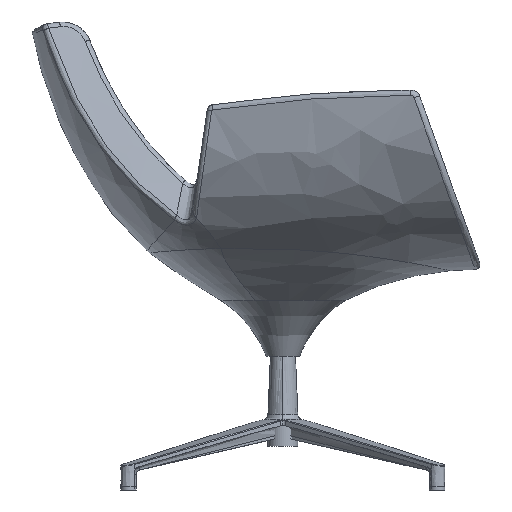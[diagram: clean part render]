
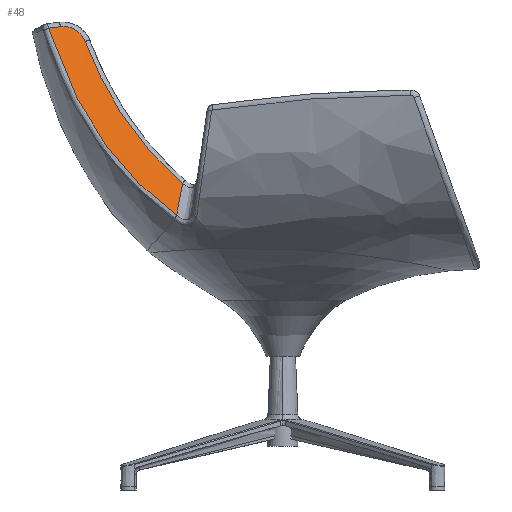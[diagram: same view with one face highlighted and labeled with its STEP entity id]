
A CAD part, left-side view. The second image highlights one B-rep face of the part: STEP entity #48.
In plain terms, the highlighted free-form (B-spline) face has degree [3, 3] with [4, 4] control points.
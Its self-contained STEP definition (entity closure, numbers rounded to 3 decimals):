
#48=ADVANCED_FACE('',(#235),#2636,.T.);
#235=FACE_OUTER_BOUND('',#422,.T.);
#422=EDGE_LOOP('',(#665,#666,#667,#668,#669));
#665=ORIENTED_EDGE('',*,*,#1434,.T.);
#666=ORIENTED_EDGE('',*,*,#1415,.F.);
#667=ORIENTED_EDGE('',*,*,#1419,.T.);
#668=ORIENTED_EDGE('',*,*,#1427,.T.);
#669=ORIENTED_EDGE('',*,*,#1430,.F.);
#1415=EDGE_CURVE('',#2270,#2268,#2082,.T.);
#1419=EDGE_CURVE('',#2270,#2272,#1824,.T.);
#1427=EDGE_CURVE('',#2272,#2273,#1832,.T.);
#1430=EDGE_CURVE('',#2284,#2273,#1835,.T.);
#1434=EDGE_CURVE('',#2284,#2268,#1839,.T.);
#1824=(
BOUNDED_CURVE()
B_SPLINE_CURVE(3,(#8282,#8283,#8284,#8285,#8286,#8287,#8288,#8289,#8290,
#8291,#8292,#8293,#8294,#8295,#8296,#8297,#8298,#8299,#8300,#8301,#8302,
#8303,#8304,#8305,#8306,#8307,#8308,#8309,#8310,#8311,#8312),
 .UNSPECIFIED.,.F.,.F.)
B_SPLINE_CURVE_WITH_KNOTS((4,3,3,3,3,3,3,3,3,3,4),(-8.956,35.045,
67.51,104.027,133.918,161.075,183.755,
220.254,241.769,257.363,274.072),
 .UNSPECIFIED.)
CURVE()
GEOMETRIC_REPRESENTATION_ITEM()
RATIONAL_B_SPLINE_CURVE((1.,1.,1.,1.,1.,1.,1.,1.,1.,1.,1.,1.,1.,1.,1.,
1.,1.,1.,1.,
1.,1.,1.,1.,1.,1.,1.,1.,1.,1.,1.,1.))
REPRESENTATION_ITEM('')
);
#1832=(
BOUNDED_CURVE()
B_SPLINE_CURVE(3,(#8425,#8426,#8427,#8428,#8429,#8430,#8431,#8432,#8433,
#8434),.UNSPECIFIED.,.F.,.F.)
B_SPLINE_CURVE_WITH_KNOTS((4,1,1,1,1,1,1,4),(2.298,8.048,
14.139,20.467,26.916,33.361,39.688,
52.337),.UNSPECIFIED.)
CURVE()
GEOMETRIC_REPRESENTATION_ITEM()
RATIONAL_B_SPLINE_CURVE((1.,1.,1.,1.,1.,
1.,1.,1.,1.,1.))
REPRESENTATION_ITEM('')
);
#1835=(
BOUNDED_CURVE()
B_SPLINE_CURVE(3,(#8455,#8456,#8457,#8458),.UNSPECIFIED.,.F.,.F.)
B_SPLINE_CURVE_WITH_KNOTS((4,4),(9.02,28.9),
 .UNSPECIFIED.)
CURVE()
GEOMETRIC_REPRESENTATION_ITEM()
RATIONAL_B_SPLINE_CURVE((1.,1.,1.,1.))
REPRESENTATION_ITEM('')
);
#1839=(
BOUNDED_CURVE()
B_SPLINE_CURVE(3,(#8471,#8472,#8473,#8474,#8475,#8476,#8477,#8478,#8479,
#8480,#8481,#8482,#8483,#8484,#8485,#8486,#8487,#8488,#8489,#8490,#8491,
#8492,#8493,#8494,#8495,#8496,#8497,#8498),.UNSPECIFIED.,.F.,.F.)
B_SPLINE_CURVE_WITH_KNOTS((4,3,3,3,3,3,3,3,3,4),(1.036,28.781,
89.128,152.305,215.117,246.445,277.36,
308.324,336.436,376.753),.UNSPECIFIED.)
CURVE()
GEOMETRIC_REPRESENTATION_ITEM()
RATIONAL_B_SPLINE_CURVE((1.,1.,1.,1.,1.,
1.,1.,1.,1.,
1.,1.,1.,1.,1.,1.,1.,
1.,1.,1.,1.,1.,1.,1.,1.,1.,1.,1.,1.))
REPRESENTATION_ITEM('')
);
#2082=B_SPLINE_CURVE_WITH_KNOTS('',3,(#8201,#8202,#8203,#8204),
 .UNSPECIFIED.,.F.,.F.,(4,4),(18.257,73.962),
 .UNSPECIFIED.);
#2268=VERTEX_POINT('',#7633);
#2270=VERTEX_POINT('',#7635);
#2272=VERTEX_POINT('',#7637);
#2273=VERTEX_POINT('',#7638);
#2284=VERTEX_POINT('',#7649);
#2636=B_SPLINE_SURFACE_WITH_KNOTS('',3,3,((#5608,#5609,#5610,#5611),(#5612,
#5613,#5614,#5615),(#5616,#5617,#5618,#5619),(#5620,#5621,#5622,#5623)),
 .UNSPECIFIED.,.F.,.F.,.F.,(4,4),(4,4),(-90.733,10.582),
(29.534,475.363),.UNSPECIFIED.);
#5608=CARTESIAN_POINT('',(-255.942,173.76,426.547));
#5609=CARTESIAN_POINT('',(-250.099,288.424,505.277));
#5610=CARTESIAN_POINT('',(-223.417,357.655,626.962));
#5611=CARTESIAN_POINT('',(-193.152,399.264,758.901));
#5612=CARTESIAN_POINT('',(-246.126,167.972,457.684));
#5613=CARTESIAN_POINT('',(-241.088,267.479,530.951));
#5614=CARTESIAN_POINT('',(-215.775,331.278,641.58));
#5615=CARTESIAN_POINT('',(-187.797,370.953,761.617));
#5616=CARTESIAN_POINT('',(-236.371,162.193,488.744));
#5617=CARTESIAN_POINT('',(-232.117,246.542,556.575));
#5618=CARTESIAN_POINT('',(-208.152,304.904,656.173));
#5619=CARTESIAN_POINT('',(-182.44,342.643,764.335));
#5620=CARTESIAN_POINT('',(-226.679,156.388,519.919));
#5621=CARTESIAN_POINT('',(-223.187,225.587,582.274));
#5622=CARTESIAN_POINT('',(-200.549,278.522,670.803));
#5623=CARTESIAN_POINT('',(-177.082,314.332,767.05));
#7633=CARTESIAN_POINT('',(-251.072,170.886,442.007));
#7635=CARTESIAN_POINT('',(-234.97,161.34,493.322));
#7637=CARTESIAN_POINT('',(-191.428,318.015,721.364));
#7638=CARTESIAN_POINT('',(-190.417,357.441,745.06));
#7649=CARTESIAN_POINT('',(-194.202,376.783,742.473));
#8201=CARTESIAN_POINT('',(-234.97,161.34,493.322));
#8202=CARTESIAN_POINT('',(-240.319,164.525,476.209));
#8203=CARTESIAN_POINT('',(-245.686,167.704,459.115));
#8204=CARTESIAN_POINT('',(-251.072,170.886,442.007));
#8282=CARTESIAN_POINT('',(-234.97,161.34,493.322));
#8283=CARTESIAN_POINT('',(-234.323,172.591,502.788));
#8284=CARTESIAN_POINT('',(-233.338,183.408,512.75));
#8285=CARTESIAN_POINT('',(-232.046,193.736,523.154));
#8286=CARTESIAN_POINT('',(-231.093,201.356,530.831));
#8287=CARTESIAN_POINT('',(-229.972,208.709,538.75));
#8288=CARTESIAN_POINT('',(-228.702,215.784,546.881));
#8289=CARTESIAN_POINT('',(-227.275,223.742,556.028));
#8290=CARTESIAN_POINT('',(-225.659,231.349,565.446));
#8291=CARTESIAN_POINT('',(-223.885,238.602,575.094));
#8292=CARTESIAN_POINT('',(-222.432,244.538,582.991));
#8293=CARTESIAN_POINT('',(-220.873,250.238,591.044));
#8294=CARTESIAN_POINT('',(-219.222,255.702,599.231));
#8295=CARTESIAN_POINT('',(-217.723,260.666,606.669));
#8296=CARTESIAN_POINT('',(-216.148,265.437,614.217));
#8297=CARTESIAN_POINT('',(-214.509,270.021,621.862));
#8298=CARTESIAN_POINT('',(-213.14,273.848,628.246));
#8299=CARTESIAN_POINT('',(-211.727,277.545,634.697));
#8300=CARTESIAN_POINT('',(-210.274,281.114,641.206));
#8301=CARTESIAN_POINT('',(-207.937,286.858,651.683));
#8302=CARTESIAN_POINT('',(-205.498,292.273,662.313));
#8303=CARTESIAN_POINT('',(-202.983,297.377,673.067));
#8304=CARTESIAN_POINT('',(-201.501,300.386,679.405));
#8305=CARTESIAN_POINT('',(-199.992,303.287,685.787));
#8306=CARTESIAN_POINT('',(-198.46,306.086,692.207));
#8307=CARTESIAN_POINT('',(-197.351,308.115,696.86));
#8308=CARTESIAN_POINT('',(-196.229,310.09,701.533));
#8309=CARTESIAN_POINT('',(-195.098,312.013,706.224));
#8310=CARTESIAN_POINT('',(-193.885,314.073,711.25));
#8311=CARTESIAN_POINT('',(-192.661,316.073,716.298));
#8312=CARTESIAN_POINT('',(-191.428,318.015,721.364));
#8425=CARTESIAN_POINT('',(-191.428,318.015,721.364));
#8426=CARTESIAN_POINT('',(-191.004,318.684,723.108));
#8427=CARTESIAN_POINT('',(-190.201,320.346,726.603));
#8428=CARTESIAN_POINT('',(-189.228,323.732,731.538));
#8429=CARTESIAN_POINT('',(-188.531,328.059,736.053));
#8430=CARTESIAN_POINT('',(-188.175,333.191,739.879));
#8431=CARTESIAN_POINT('',(-188.192,338.904,742.794));
#8432=CARTESIAN_POINT('',(-188.703,346.99,745.321));
#8433=CARTESIAN_POINT('',(-189.613,353.34,745.613));
#8434=CARTESIAN_POINT('',(-190.417,357.441,745.06));
#8455=CARTESIAN_POINT('',(-194.202,376.783,742.473));
#8456=CARTESIAN_POINT('',(-192.94,370.335,743.334));
#8457=CARTESIAN_POINT('',(-191.678,363.888,744.196));
#8458=CARTESIAN_POINT('',(-190.417,357.441,745.06));
#8471=CARTESIAN_POINT('',(-194.202,376.783,742.473));
#8472=CARTESIAN_POINT('',(-196.224,374.06,733.878));
#8473=CARTESIAN_POINT('',(-198.229,371.199,725.322));
#8474=CARTESIAN_POINT('',(-200.211,368.19,716.811));
#8475=CARTESIAN_POINT('',(-204.521,361.646,698.3));
#8476=CARTESIAN_POINT('',(-208.721,354.404,680.004));
#8477=CARTESIAN_POINT('',(-212.75,346.362,662.019));
#8478=CARTESIAN_POINT('',(-216.968,337.942,643.191));
#8479=CARTESIAN_POINT('',(-220.999,328.645,624.705));
#8480=CARTESIAN_POINT('',(-224.763,318.365,606.713));
#8481=CARTESIAN_POINT('',(-228.505,308.145,588.826));
#8482=CARTESIAN_POINT('',(-231.983,296.954,571.428));
#8483=CARTESIAN_POINT('',(-235.113,284.737,554.704));
#8484=CARTESIAN_POINT('',(-236.674,278.644,546.363));
#8485=CARTESIAN_POINT('',(-238.148,272.296,538.189));
#8486=CARTESIAN_POINT('',(-239.524,265.693,530.208));
#8487=CARTESIAN_POINT('',(-240.883,259.178,522.332));
#8488=CARTESIAN_POINT('',(-242.147,252.416,514.643));
#8489=CARTESIAN_POINT('',(-243.307,245.412,507.162));
#8490=CARTESIAN_POINT('',(-244.469,238.398,499.669));
#8491=CARTESIAN_POINT('',(-245.527,231.143,492.384));
#8492=CARTESIAN_POINT('',(-246.474,223.66,485.325));
#8493=CARTESIAN_POINT('',(-247.334,216.865,478.917));
#8494=CARTESIAN_POINT('',(-248.102,209.883,472.695));
#8495=CARTESIAN_POINT('',(-248.774,202.723,466.672));
#8496=CARTESIAN_POINT('',(-249.738,192.456,458.036));
#8497=CARTESIAN_POINT('',(-250.504,181.824,449.811));
#8498=CARTESIAN_POINT('',(-251.072,170.886,442.007));
